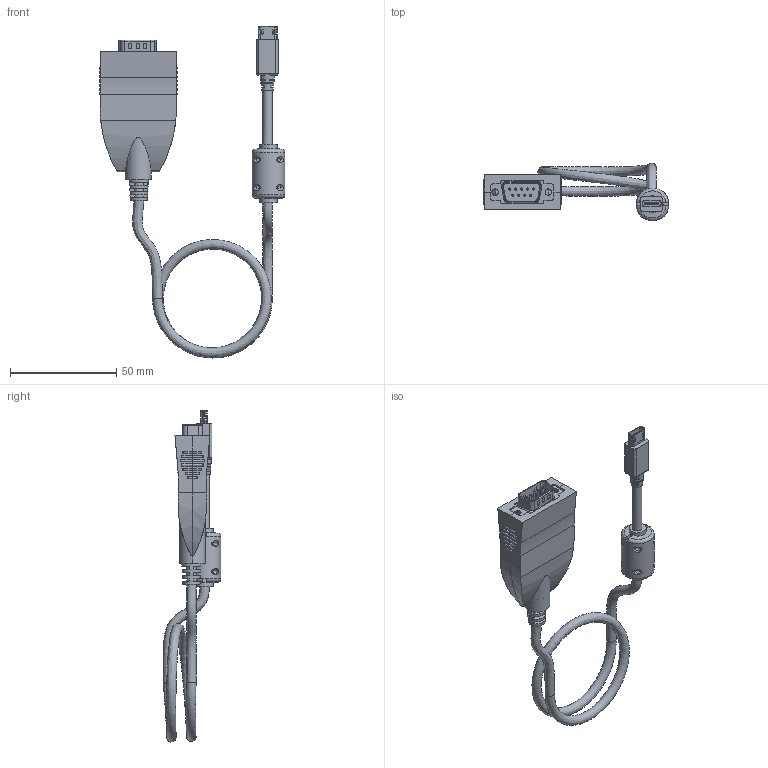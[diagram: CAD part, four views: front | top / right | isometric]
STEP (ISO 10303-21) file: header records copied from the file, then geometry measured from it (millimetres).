
FILE_DESCRIPTION(/* description */ (''),/* implementation_level */ '2;1');
FILE_NAME(/* name */ 'C:/Users/Leo/Desktop/AA CoolGear CADs/GM-FTDI2-LED16-C/GM-FTDI2-LED16-C Model3D LPV1.step',/* time_stamp */ '2021-06-02T15:23:34-04:00',/* author */ (''),/* organization */ (''),/* preprocessor_version */ 'ST-DEVELOPER v18.1',/* originating_system */ 'Autodesk Translation Framework v10.9.0.1377',/* authorisation */ '');
FILE_SCHEMA (('AUTOMOTIVE_DESIGN { 1 0 10303 214 3 1 1 }'));
Length unit declared in the file: millimetre
Products named in the file (1): FusionComponent
Bounding box: 87.26 x 27.11 x 155.9 mm (x, y, z)
Volume: 23904.1 mm3; surface area: 26238 mm2
Topology: 11 solids, 15 shells, 2504 faces, 7155 edges, 4649 vertices
Faces by surface type: bspline 1127, cylinder 729, plane 581, torus 32, sphere 29, cone 6
Full cylindrical faces by diameter (mm): 0.9 x9, 1 x18, 1.5 x19, 3 x2, 4.4 x2, 8 x2, 10 x2, 10.4 x2, 15.4 x1
Entity records: 95318 total; most frequent: CARTESIAN_POINT 31882, ORIENTED_EDGE 14184, DIRECTION 13115, EDGE_CURVE 7092, AXIS2_PLACEMENT_3D 4999, VERTEX_POINT 4645, CIRCLE 3598, LINE 3117
